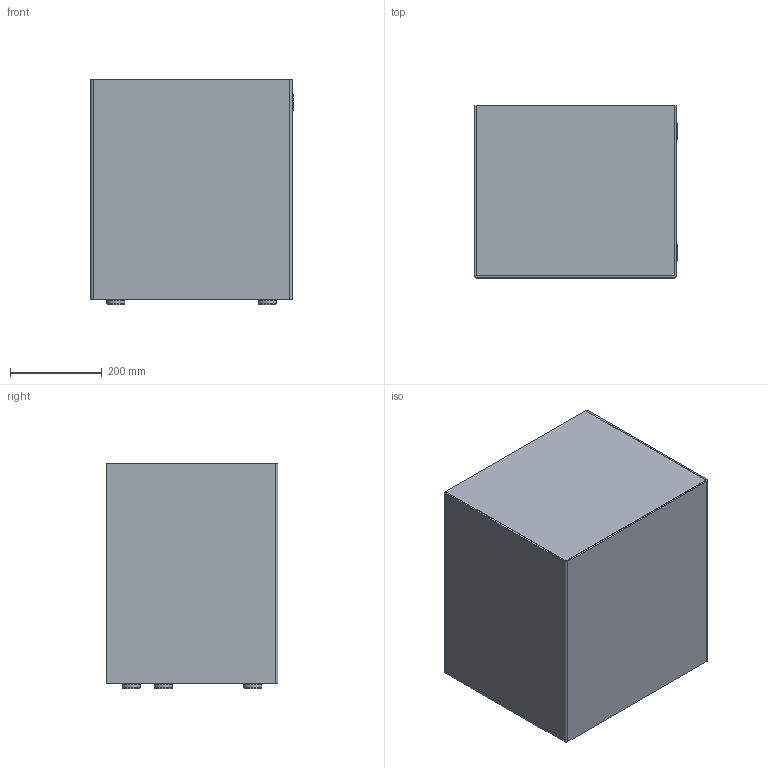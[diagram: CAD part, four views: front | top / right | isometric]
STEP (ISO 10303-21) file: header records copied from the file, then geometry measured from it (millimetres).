
FILE_DESCRIPTION(/* description */ (''),/* implementation_level */ '2;1');
FILE_NAME(/* name */ '10-0000-050190_Nexo Small Bench.stp',/* time_stamp */ '2023-12-06T11:16:01+01:00',/* author */ ('ksj'),/* organization */ (''),/* preprocessor_version */ 'ST-DEVELOPER v19.2',/* originating_system */ 'Autodesk Inventor 2023',/* authorisation */ '');
FILE_SCHEMA (('AUTOMOTIVE_DESIGN { 1 0 10303 214 3 1 1 }'));
Length unit declared in the file: millimetre
Products named in the file (1): 10-0000-050190_Nexo Small Bench
Bounding box: 442 x 375 x 492 mm (x, y, z)
Volume: 3633297.6 mm3; surface area: 1854183.9 mm2
Topology: 22 solids, 22 shells, 142 faces, 280 edges, 184 vertices
Faces by surface type: plane 108, cylinder 34
Full cylindrical faces by diameter (mm): 22 x4, 22.5 x4, 24 x4, 25 x4, 35 x2, 38 x4, 39 x4
Entity records: 3843 total; most frequent: DIRECTION 632, CARTESIAN_POINT 605, ORIENTED_EDGE 556, EDGE_CURVE 278, AXIS2_PLACEMENT_3D 211, LINE 210, VECTOR 210, VERTEX_POINT 180
